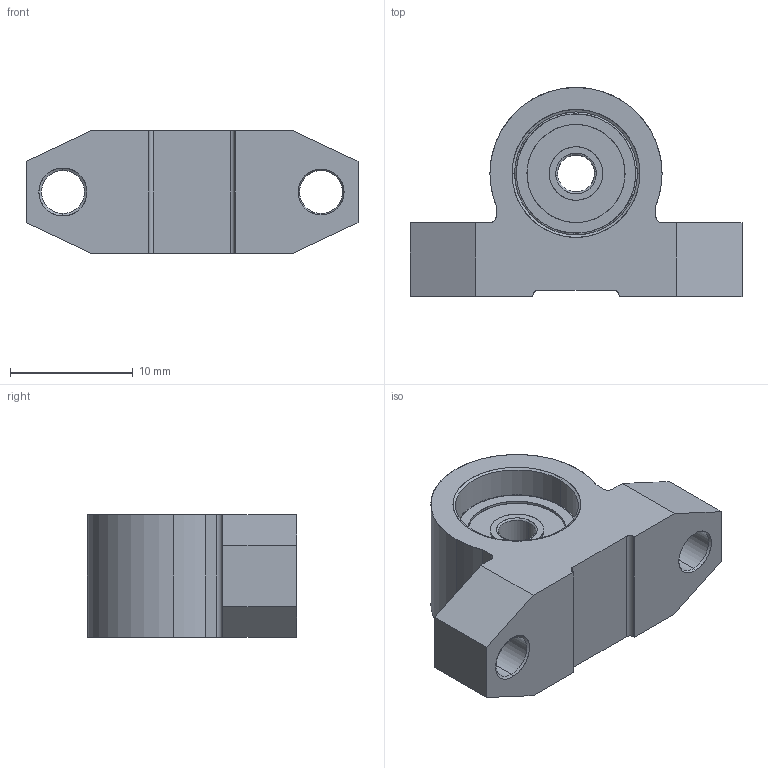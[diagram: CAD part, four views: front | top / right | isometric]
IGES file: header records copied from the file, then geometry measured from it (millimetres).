
Start section: SolidWorks IGES file using analytic representation for surfaces
Global section: file name: C:\Users\watanabe\Desktop\MSU-4\MSU4CS.IGS; native system: SolidWorks 2010; preprocessor: SolidWorks 2010; author: watanabe; date: 120613.094932; units: millimetre
Bounding box: 27 x 17 x 10 mm (x, y, z)
Surface area: 1870.2 mm2 (no closed solid volume)
Topology: 0 solids, 0 shells, 68 faces, 918 edges, 918 vertices
Faces by surface type: revolution 37, bspline 31
